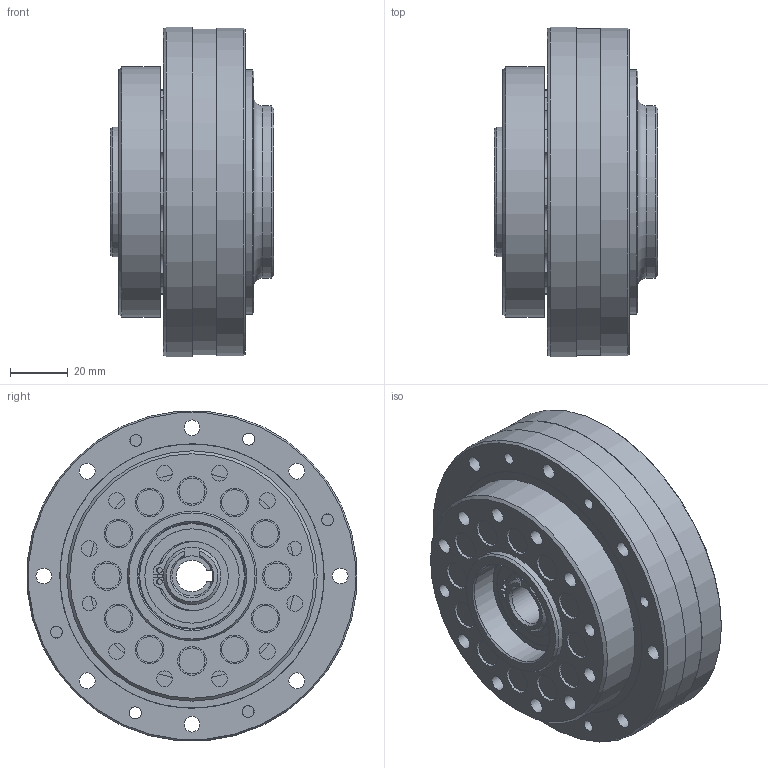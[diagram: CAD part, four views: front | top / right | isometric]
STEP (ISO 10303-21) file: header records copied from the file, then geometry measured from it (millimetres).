
FILE_DESCRIPTION(/* description */ ('Katalogmodell FC-A15G '),/* implementation_level */ '2;1');
FILE_NAME(/* name */ 'C:\Users\ADMINI~1\AppData\Local\Temp\MM16_01_01_Katalogmodell_FC-A15G_.stp',/* time_stamp */ '2018-06-12T17:10:50+02:00',/* author */ ('Max'),/* organization */ (''),/* preprocessor_version */ 'ST-DEVELOPER v17',/* originating_system */ 'Autodesk Inventor 2018',/* authorisation */ '');
FILE_SCHEMA (('AUTOMOTIVE_DESIGN { 1 0 10303 214 3 1 1 }'));
Length unit declared in the file: millimetre
Products named in the file (15): 16_01_01; MM555111-bg; MM133336; MM133330; MM133329; 200331; 205720; M205720-1; M205720-2; M205720-3; M205720-4; 240K020----NG; 241K037----NG; MM133335; MM133328
Assembly tree (30 placements, depth 4):
  16_01_01
    MM555111-bg
      MM133336
      MM133330
      MM133329
      205720  x2
        M205720-1
        M205720-2
        M205720-3
        M205720-4
      240K020----NG  x2
      200331  x4
      241K037----NG
    MM133335
    MM133328
Bounding box: 57 x 114.56 x 114.56 mm (x, y, z)
Volume: 361981 mm3; surface area: 115769.3 mm2
Topology: 42 solids, 42 shells, 401 faces, 1066 edges, 761 vertices
Faces by surface type: cylinder 183, plane 146, torus 25, sphere 24, cone 23
Full cylindrical faces by diameter (mm): 2 x4, 2.5 x2, 4.134 x6, 4.917 x2, 5 x4, 5.5 x32, 8.5 x4, 9 x12, 10 x28, 19 x2, 20 x6, 22 x1, 24.2 x6, 25.6 x4, 27 x1, 31.4 x4, 32.8 x6, 35 x2, 37 x5, 39 x1, 45 x1, 48 x1, 60 x1, 70 x1, 72 x1, 76 x1, 85 x1, 87 x1, 90 x2, 92 x2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
Entity records: 10215 total; most frequent: DIRECTION 1915, CARTESIAN_POINT 1651, ORIENTED_EDGE 1496, AXIS2_PLACEMENT_3D 849, EDGE_CURVE 748, VERTEX_POINT 537, CIRCLE 515, EDGE_LOOP 447
